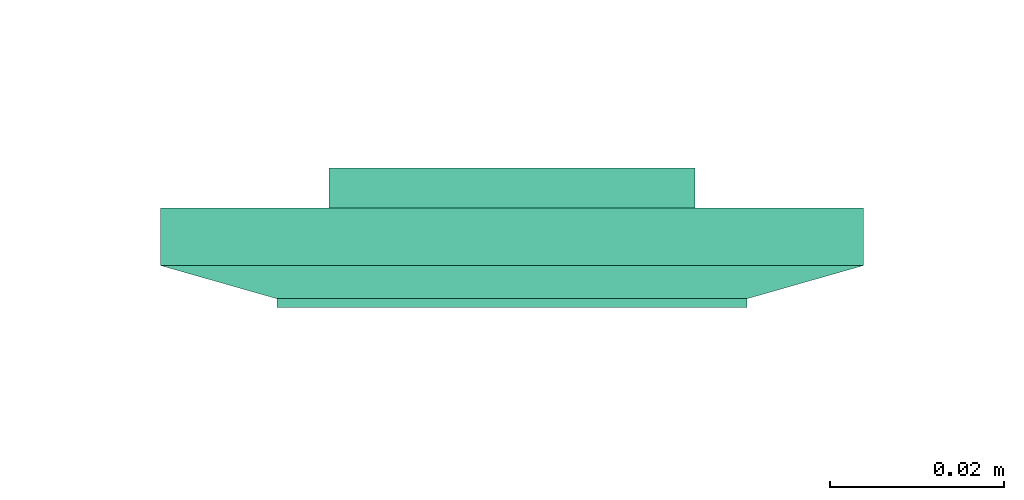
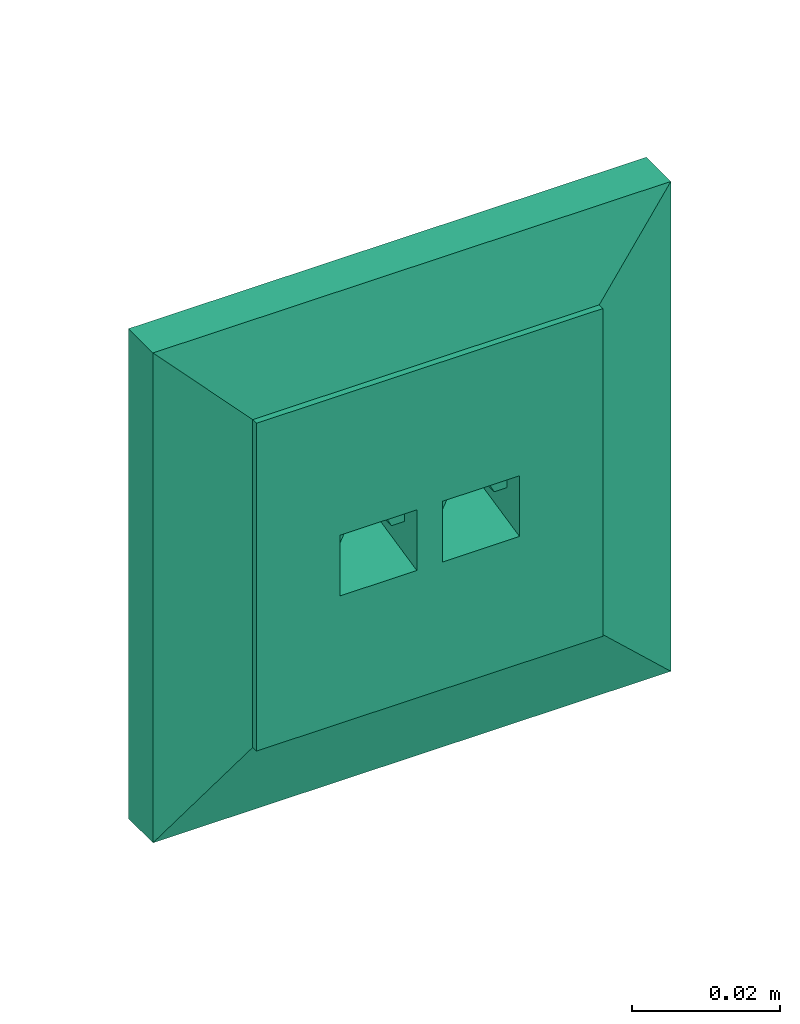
# One storey, part 125 of 146: 1 flow terminal.
"""IFC2X3 building model written with IfcOpenShell, lengths in metres."""

from ifc_helpers import new_model, entity, si_unit, converted_unit, derived_unit, direction, frame, origin, place, context, subcontext, project, spatial, faceted_brep, source, transform, mapped, type_object, type_shapes, element, save


model = new_model("IFC2X3")

# Units and contexts
model_context = context("Model", 3, precision=1e-05, world=origin(), true_north=direction((6.12303176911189e-17, 1.0)))
body_context = subcontext(model_context, "Body", "Model", "MODEL_VIEW")
ifc_project = project(units=[si_unit("LENGTHUNIT", "METRE"), si_unit("AREAUNIT", "SQUARE_METRE"), si_unit("VOLUMEUNIT", "CUBIC_METRE"), converted_unit("PLANEANGLEUNIT", "DEGREE", entity("IfcRatioMeasure", 0.0174532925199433), si_unit("PLANEANGLEUNIT", "RADIAN"), dimensions=[0, 0, 0, 0, 0, 0, 0]), si_unit("MASSUNIT", "GRAM", prefix="KILO"), derived_unit("MASSDENSITYUNIT", [(si_unit("MASSUNIT", "GRAM", prefix="KILO"), 1), (si_unit("LENGTHUNIT", "METRE"), -3)]), si_unit("TIMEUNIT", "SECOND"), si_unit("FREQUENCYUNIT", "HERTZ"), si_unit("THERMODYNAMICTEMPERATUREUNIT", "DEGREE_CELSIUS"), derived_unit("THERMALTRANSMITTANCEUNIT", [(si_unit("MASSUNIT", "GRAM", prefix="KILO"), 1), (si_unit("THERMODYNAMICTEMPERATUREUNIT", "KELVIN"), -1), (si_unit("TIMEUNIT", "SECOND"), -3)]), derived_unit("VOLUMETRICFLOWRATEUNIT", [(si_unit("LENGTHUNIT", "METRE"), 3), (si_unit("TIMEUNIT", "SECOND"), -1)]), si_unit("ELECTRICCURRENTUNIT", "AMPERE"), si_unit("ELECTRICVOLTAGEUNIT", "VOLT"), si_unit("POWERUNIT", "WATT"), si_unit("FORCEUNIT", "NEWTON"), si_unit("ILLUMINANCEUNIT", "LUX"), si_unit("LUMINOUSFLUXUNIT", "LUMEN"), si_unit("LUMINOUSINTENSITYUNIT", "CANDELA"), derived_unit("USERDEFINED", [(si_unit("MASSUNIT", "GRAM", prefix="KILO"), -1), (si_unit("LENGTHUNIT", "METRE"), -2), (si_unit("TIMEUNIT", "SECOND"), 3), (si_unit("LUMINOUSFLUXUNIT", "LUMEN"), 1)]), derived_unit("LINEARVELOCITYUNIT", [(si_unit("LENGTHUNIT", "METRE"), 1), (si_unit("TIMEUNIT", "SECOND"), -1)]), si_unit("PRESSUREUNIT", "PASCAL"), derived_unit("USERDEFINED", [(si_unit("LENGTHUNIT", "METRE"), -2), (si_unit("MASSUNIT", "GRAM", prefix="KILO"), 1), (si_unit("TIMEUNIT", "SECOND"), -2)])], contexts=[model_context])

# Site, building, storey
site_placement = place(None, origin())
site = spatial("IfcSite", under=ifc_project, at=site_placement, Name="Default", CompositionType="ELEMENT")
building_placement = place(site_placement, origin())
building = spatial("IfcBuilding", under=site, at=building_placement, CompositionType="ELEMENT")
storey_placement = place(building_placement, origin())
storey = spatial("IfcBuildingStorey", under=building, at=storey_placement, Name="S01", CompositionType="ELEMENT", Elevation=0.0)

# Flow terminal
electric_appliance_type = type_object("IfcElectricApplianceType", Name="RJ45 IP20", PredefinedType="NOTDEFINED")
shared_shape = source(origin(), body_context, "Body", "Brep", [
    faceted_brep([(0.00200000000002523, 0.0, 0.00799999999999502), (0.00400000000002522, 0.0, 0.00799999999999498), (0.00500000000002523, 0.00199999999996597, 0.00799999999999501), (0.0110000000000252, 0.00199999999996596, 0.00799999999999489), (0.0120000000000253, 0.0, 0.00799999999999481), (0.0140000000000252, 0.0, 0.00799999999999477), (0.0140000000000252, 0.00399999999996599, 0.00799999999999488), (0.00200000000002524, 0.00399999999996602, 0.00799999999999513), (0.00200000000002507, 0.0, 0.0), (0.00200000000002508, 0.00399999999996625, 0.0), (0.0140000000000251, 0.00399999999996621, 0.0), (0.0140000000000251, 0.0, 0.0), (0.0120000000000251, 0.0, 0.0), (0.0110000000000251, 0.00199999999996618, 0.0), (0.00500000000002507, 0.0019999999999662, 0.0), (0.00400000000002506, 0.0, 0.0)], [[[0, 1, 2, 3, 4, 5, 6, 7]], [[8, 9, 10, 11, 12, 13, 14, 15]], [[1, 0, 8, 15]], [[2, 1, 15, 14]], [[3, 2, 14, 13]], [[4, 3, 13, 12]], [[5, 4, 12, 11]], [[6, 5, 11, 10]], [[7, 6, 10, 9]], [[0, 7, 9, 8]]]),
    faceted_brep([(-0.0139999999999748, 0.0, 0.00799999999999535), (-0.0119999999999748, 0.0, 0.00799999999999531), (-0.0109999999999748, 0.00199999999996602, 0.00799999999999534), (-0.00499999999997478, 0.00199999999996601, 0.00799999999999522), (-0.0039999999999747, 0.0, 0.00799999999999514), (-0.00199999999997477, 0.0, 0.0079999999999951), (-0.00199999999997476, 0.00399999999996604, 0.00799999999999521), (-0.0139999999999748, 0.00399999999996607, 0.00799999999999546), (-0.0139999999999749, 0.0, 0.0), (-0.0139999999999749, 0.00399999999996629, 0.0), (-0.00199999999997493, 0.00399999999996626, 0.0), (-0.00199999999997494, 0.0, 0.0), (-0.00399999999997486, 0.0, 0.0), (-0.00499999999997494, 0.00199999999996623, 0.0), (-0.0109999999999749, 0.00199999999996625, 0.0), (-0.0119999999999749, 0.0, 0.0)], [[[0, 1, 2, 3, 4, 5, 6, 7]], [[8, 9, 10, 11, 12, 13, 14, 15]], [[1, 0, 8, 15]], [[2, 1, 15, 14]], [[3, 2, 14, 13]], [[4, 3, 13, 12]], [[5, 4, 12, 11]], [[6, 5, 11, 10]], [[7, 6, 10, 9]], [[0, 7, 9, 8]]]),
    faceted_brep([(0.0140000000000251, 0.00399999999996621, 0.0), (0.00200000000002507, 0.00399999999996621, 0.0), (0.00200000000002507, -0.00350000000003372, 0.0), (0.0140000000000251, -0.00350000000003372, 0.0), (0.0140000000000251, 0.00399999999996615, 0.00199999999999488), (0.00200000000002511, 0.00399999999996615, 0.00199999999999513), (0.00200000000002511, -0.00393859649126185, 0.00199999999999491), (0.0140000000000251, -0.00393859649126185, 0.00199999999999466), (0.0210000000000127, 0.0209999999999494, 0.00199999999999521), (-0.0209999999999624, 0.0209999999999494, 0.00199999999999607), (-0.0209999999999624, -0.0210000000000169, 0.00199999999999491), (0.0210000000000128, -0.0210000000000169, 0.00199999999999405), (-0.0139999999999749, 0.0039999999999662, 0.00199999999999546), (-0.0019999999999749, 0.0039999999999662, 0.00199999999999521), (-0.00199999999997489, -0.0039385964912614, 0.00199999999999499), (-0.0139999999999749, -0.00393859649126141, 0.00199999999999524), (0.0210000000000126, 0.0209999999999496, -0.00460000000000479), (0.0210000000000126, -0.0210000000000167, -0.00460000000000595), (-0.0209999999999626, -0.0210000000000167, -0.00460000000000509), (-0.0209999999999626, 0.0209999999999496, -0.00460000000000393), (-0.00199999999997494, 0.00399999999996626, 0.0), (-0.0139999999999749, 0.00399999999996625, 0.0), (-0.0139999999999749, -0.00350000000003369, 0.0), (-0.00199999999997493, -0.00350000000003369, 0.0)], [[[0, 1, 2, 3]], [[1, 0, 4, 5]], [[2, 1, 5, 6]], [[3, 2, 6, 7]], [[0, 3, 7, 4]], [[5, 4, 7, 6], [8, 9, 10, 11], [12, 13, 14, 15]], [[16, 17, 18, 19]], [[9, 8, 16, 19]], [[10, 9, 19, 18]], [[11, 10, 18, 17]], [[8, 11, 17, 16]], [[20, 21, 22, 23]], [[21, 20, 13, 12]], [[22, 21, 12, 15]], [[23, 22, 15, 14]], [[20, 23, 14, 13]]], outer=[[True], [True], [True], [True], [True], [False, True, False], [True], [True], [True], [True], [True], [True], [True], [True], [True], [True]]),
    faceted_brep([(0.0270000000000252, 0.026999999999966, 0.0113999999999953), (-0.0269999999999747, 0.026999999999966, 0.0113999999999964), (-0.0269999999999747, -0.0270000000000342, 0.0113999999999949), (0.0270000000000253, -0.0270000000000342, 0.0113999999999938), (0.0020000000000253, 0.00399999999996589, 0.0113999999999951), (0.0140000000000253, 0.00399999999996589, 0.0113999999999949), (0.0140000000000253, -0.00600000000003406, 0.0113999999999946), (0.0020000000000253, -0.00600000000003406, 0.0113999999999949), (-0.0139999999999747, 0.00399999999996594, 0.0113999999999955), (-0.00199999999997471, 0.00399999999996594, 0.0113999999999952), (-0.00199999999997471, -0.0060000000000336, 0.0113999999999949), (-0.0139999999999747, -0.00600000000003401, 0.0113999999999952), (0.0270000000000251, 0.0269999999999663, 0.00199999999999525), (0.0270000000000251, -0.0270000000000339, 0.00199999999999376), (-0.0269999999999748, -0.0270000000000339, 0.00199999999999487), (-0.0269999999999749, 0.0269999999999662, 0.00199999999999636), (0.0140000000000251, 0.00399999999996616, 0.00199999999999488), (0.00200000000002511, 0.00399999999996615, 0.00199999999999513), (0.00200000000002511, -0.00393859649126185, 0.00199999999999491), (0.0140000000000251, -0.00393859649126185, 0.00199999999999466), (-0.00199999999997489, 0.0039999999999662, 0.00199999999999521), (-0.0139999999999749, 0.0039999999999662, 0.00199999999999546), (-0.0139999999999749, -0.0039385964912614, 0.00199999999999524), (-0.00199999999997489, -0.0039385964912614, 0.00199999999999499)], [[[0, 1, 2, 3], [4, 5, 6, 7], [8, 9, 10, 11]], [[12, 13, 14, 15], [16, 17, 18, 19], [20, 21, 22, 23]], [[1, 0, 12, 15]], [[2, 1, 15, 14]], [[3, 2, 14, 13]], [[0, 3, 13, 12]], [[4, 17, 16, 5]], [[17, 4, 7, 18]], [[18, 7, 6, 19]], [[5, 16, 19, 6]], [[8, 21, 20, 9]], [[21, 8, 11, 22]], [[22, 11, 10, 23]], [[9, 20, 23, 10]]]),
    faceted_brep([(0.027000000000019, 0.0269999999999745, 0.00659999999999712), (-0.0269999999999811, 0.0269999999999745, 0.00659999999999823), (-0.026999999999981, -0.0270000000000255, 0.00659999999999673), (0.027000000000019, -0.0270000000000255, 0.00659999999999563), (0.040350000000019, 0.0403499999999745, 0.00659999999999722), (0.040350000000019, -0.0403500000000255, 0.00659999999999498), (-0.0403499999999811, -0.0403500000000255, 0.00659999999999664), (-0.0403499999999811, 0.0403499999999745, 0.00659999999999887), (-0.026999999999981, 0.0269999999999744, 0.0103999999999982), (0.027000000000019, 0.0269999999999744, 0.0103999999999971), (-0.026999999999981, -0.0270000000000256, 0.0103999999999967), (0.027000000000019, -0.0270000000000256, 0.0103999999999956)], [[[0, 1, 2, 3], [4, 5, 6, 7]], [[4, 7, 8, 9]], [[7, 6, 10, 8]], [[6, 5, 11, 10]], [[5, 4, 9, 11]], [[0, 9, 8, 1]], [[1, 8, 10, 2]], [[2, 10, 11, 3]], [[9, 0, 3, 11]]], outer=[[False, True], [True], [True], [True], [True], [True], [True], [True], [True]]),
    faceted_brep([(0.040350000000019, 0.0403499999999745, 0.00659999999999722), (-0.0403499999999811, 0.0403499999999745, 0.00659999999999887), (-0.0403499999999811, -0.0403500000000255, 0.00659999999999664), (0.040350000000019, -0.0403500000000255, 0.00659999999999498), (-0.0269999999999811, 0.0269999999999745, 0.00659999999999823), (0.0270000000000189, 0.0269999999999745, 0.00659999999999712), (0.0270000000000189, -0.0270000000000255, 0.00659999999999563), (-0.0269999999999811, -0.0270000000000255, 0.00659999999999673), (0.0403500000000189, 0.0403499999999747, 0.0), (0.0403500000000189, -0.0403500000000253, 0.0), (-0.0403499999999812, -0.0403500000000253, 0.0), (-0.0403499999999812, 0.0403499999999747, 0.0), (0.0270000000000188, 0.0269999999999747, 0.0), (-0.0269999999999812, 0.0269999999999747, 0.0), (-0.0269999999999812, -0.0270000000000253, 0.0), (0.0270000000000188, -0.0270000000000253, 0.0)], [[[0, 1, 2, 3], [4, 5, 6, 7]], [[8, 9, 10, 11], [12, 13, 14, 15]], [[1, 0, 8, 11]], [[2, 1, 11, 10]], [[3, 2, 10, 9]], [[0, 3, 9, 8]], [[12, 5, 4, 13]], [[13, 4, 7, 14]], [[14, 7, 6, 15]], [[5, 12, 15, 6]]]),
])
type_shapes(electric_appliance_type, [shared_shape])
flow_terminal_placement = place(storey_placement, frame((61.1765013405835, -185.264069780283, 0.320000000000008), z_axis=(0.0, -1.0, 0.0), x_axis=(1.0, 0.0, 0.0)))
element("IfcFlowTerminal", 1, at=flow_terminal_placement, inside=storey, type_object=electric_appliance_type, Name="INT_Prise RJ45:RJ45 IP20", ObjectType="INT_Prise RJ45:RJ45 IP20", context=body_context, shape_type="MappedRepresentation", body=[
    mapped(shared_shape, transform((0.0, 0.0, 0.0), scale=1.0)),
])

save(model, "model.ifc")
